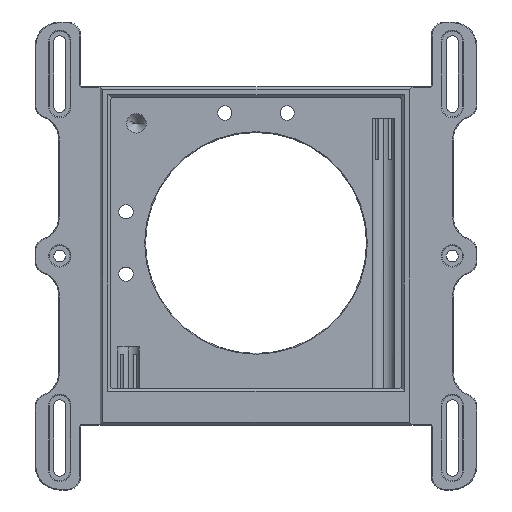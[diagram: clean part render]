
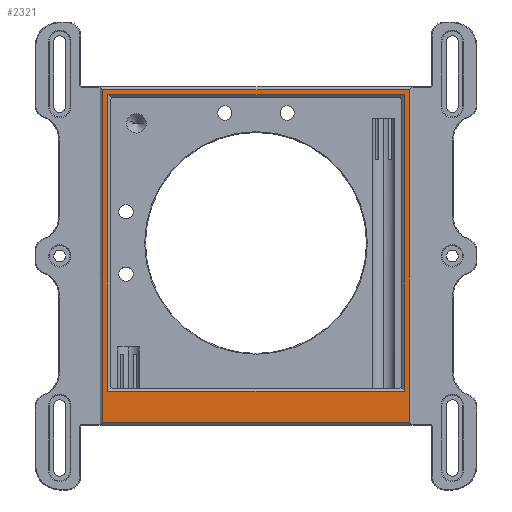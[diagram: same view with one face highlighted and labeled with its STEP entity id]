
A CAD part, top view. The second image highlights one B-rep face of the part: STEP entity #2321.
In plain terms, the highlighted planar face has unit normal (0, 0, 1).
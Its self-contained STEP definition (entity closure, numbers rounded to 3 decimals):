
#85 = LINE ( 'NONE', #3149, #589 ) ;
#118 = FACE_BOUND ( 'NONE', #8164, .T. ) ;
#346 = VERTEX_POINT ( 'NONE', #1917 ) ;
#367 = CARTESIAN_POINT ( 'NONE',  ( 56., 62., 15. ) ) ;
#392 = VECTOR ( 'NONE', #8299, 1000. ) ;
#523 = VERTEX_POINT ( 'NONE', #8564 ) ;
#589 = VECTOR ( 'NONE', #5451, 1000. ) ;
#1032 = DIRECTION ( 'NONE',  ( -1., 0., 0. ) ) ;
#1450 = ORIENTED_EDGE ( 'NONE', *, *, #2513, .T. ) ;
#1557 = ORIENTED_EDGE ( 'NONE', *, *, #7724, .T. ) ;
#1624 = PLANE ( 'NONE',  #8445 ) ;
#1895 = CARTESIAN_POINT ( 'NONE',  ( -57., 61., 15. ) ) ;
#1917 = CARTESIAN_POINT ( 'NONE',  ( 59., 64., 15. ) ) ;
#2092 = EDGE_CURVE ( 'NONE', #9726, #523, #5901, .T. ) ;
#2321 = ADVANCED_FACE ( 'NONE', ( #118, #4869 ), #1624, .T. ) ;
#2513 = EDGE_CURVE ( 'NONE', #3579, #8268, #7306, .T. ) ;
#3077 = CARTESIAN_POINT ( 'NONE',  ( 0., 0., 15. ) ) ;
#3149 = CARTESIAN_POINT ( 'NONE',  ( -60., 64., 15. ) ) ;
#3265 = ORIENTED_EDGE ( 'NONE', *, *, #2092, .T. ) ;
#3579 = VERTEX_POINT ( 'NONE', #9495 ) ;
#3917 = ORIENTED_EDGE ( 'NONE', *, *, #5742, .T. ) ;
#4001 = LINE ( 'NONE', #8810, #4511 ) ;
#4126 = LINE ( 'NONE', #6407, #8729 ) ;
#4179 = VERTEX_POINT ( 'NONE', #4728 ) ;
#4400 = CARTESIAN_POINT ( 'NONE',  ( -59., -64., 15. ) ) ;
#4500 = DIRECTION ( 'NONE',  ( 0., 1., 0. ) ) ;
#4511 = VECTOR ( 'NONE', #7234, 1000. ) ;
#4567 = CARTESIAN_POINT ( 'NONE',  ( -59., 64., 15. ) ) ;
#4596 = LINE ( 'NONE', #7739, #5722 ) ;
#4728 = CARTESIAN_POINT ( 'NONE',  ( 57., -52., 15. ) ) ;
#4792 = VECTOR ( 'NONE', #7380, 1000. ) ;
#4793 = CARTESIAN_POINT ( 'NONE',  ( -57., -52., 15. ) ) ;
#4826 = EDGE_CURVE ( 'NONE', #6331, #3579, #9007, .T. ) ;
#4869 = FACE_OUTER_BOUND ( 'NONE', #7321, .T. ) ;
#5035 = CARTESIAN_POINT ( 'NONE',  ( 57., 62., 15. ) ) ;
#5136 = DIRECTION ( 'NONE',  ( 1., 0., 0. ) ) ;
#5451 = DIRECTION ( 'NONE',  ( -1., 0., 0. ) ) ;
#5722 = VECTOR ( 'NONE', #4500, 1000. ) ;
#5742 = EDGE_CURVE ( 'NONE', #346, #6953, #85, .T. ) ;
#5901 = LINE ( 'NONE', #8997, #8768 ) ;
#5917 = ORIENTED_EDGE ( 'NONE', *, *, #6200, .T. ) ;
#6113 = EDGE_CURVE ( 'NONE', #523, #346, #4596, .T. ) ;
#6157 = LINE ( 'NONE', #9110, #392 ) ;
#6200 = EDGE_CURVE ( 'NONE', #8268, #4179, #6157, .T. ) ;
#6331 = VERTEX_POINT ( 'NONE', #4793 ) ;
#6407 = CARTESIAN_POINT ( 'NONE',  ( -56., -52., 15. ) ) ;
#6550 = DIRECTION ( 'NONE',  ( 1., 0., 0. ) ) ;
#6953 = VERTEX_POINT ( 'NONE', #4567 ) ;
#6978 = ORIENTED_EDGE ( 'NONE', *, *, #7326, .T. ) ;
#7003 = DIRECTION ( 'NONE',  ( 1., 0., 0. ) ) ;
#7234 = DIRECTION ( 'NONE',  ( 0., -1., 0. ) ) ;
#7306 = LINE ( 'NONE', #367, #7864 ) ;
#7321 = EDGE_LOOP ( 'NONE', ( #6978, #3265, #8651, #3917 ) ) ;
#7326 = EDGE_CURVE ( 'NONE', #6953, #9726, #4001, .T. ) ;
#7380 = DIRECTION ( 'NONE',  ( 0., 1., 0. ) ) ;
#7604 = ORIENTED_EDGE ( 'NONE', *, *, #4826, .T. ) ;
#7724 = EDGE_CURVE ( 'NONE', #4179, #6331, #4126, .T. ) ;
#7739 = CARTESIAN_POINT ( 'NONE',  ( 59., 65., 15. ) ) ;
#7772 = DIRECTION ( 'NONE',  ( 0., 0., 1. ) ) ;
#7864 = VECTOR ( 'NONE', #6550, 1000. ) ;
#8164 = EDGE_LOOP ( 'NONE', ( #7604, #1450, #5917, #1557 ) ) ;
#8268 = VERTEX_POINT ( 'NONE', #5035 ) ;
#8299 = DIRECTION ( 'NONE',  ( 0., -1., 0. ) ) ;
#8445 = AXIS2_PLACEMENT_3D ( 'NONE', #3077, #7772, #7003 ) ;
#8564 = CARTESIAN_POINT ( 'NONE',  ( 59., -64., 15. ) ) ;
#8651 = ORIENTED_EDGE ( 'NONE', *, *, #6113, .T. ) ;
#8729 = VECTOR ( 'NONE', #1032, 1000. ) ;
#8768 = VECTOR ( 'NONE', #5136, 1000. ) ;
#8810 = CARTESIAN_POINT ( 'NONE',  ( -59., -65., 15. ) ) ;
#8997 = CARTESIAN_POINT ( 'NONE',  ( 60., -64., 15. ) ) ;
#9007 = LINE ( 'NONE', #1895, #4792 ) ;
#9110 = CARTESIAN_POINT ( 'NONE',  ( 57., -51., 15. ) ) ;
#9495 = CARTESIAN_POINT ( 'NONE',  ( -57., 62., 15. ) ) ;
#9726 = VERTEX_POINT ( 'NONE', #4400 ) ;
